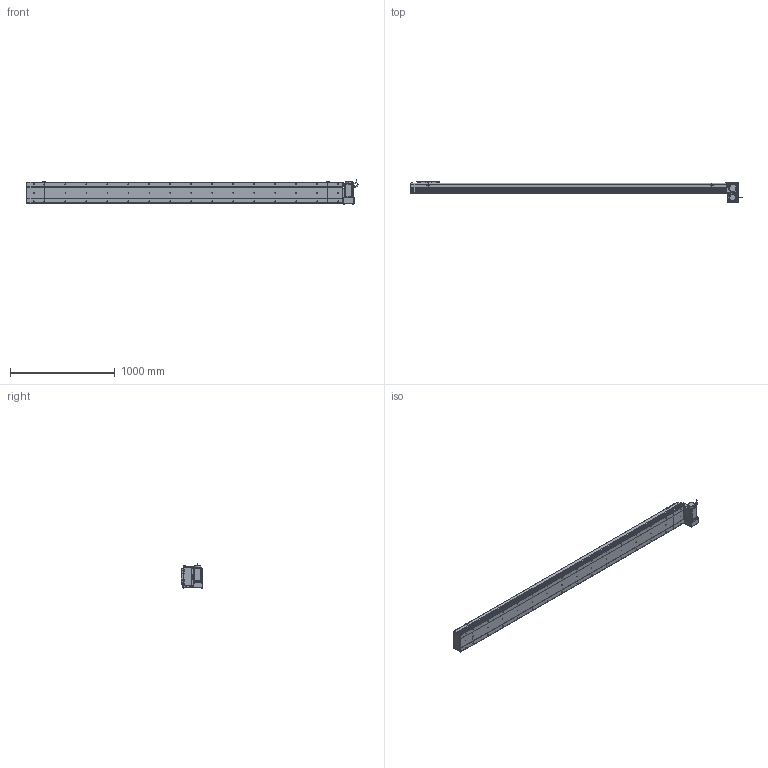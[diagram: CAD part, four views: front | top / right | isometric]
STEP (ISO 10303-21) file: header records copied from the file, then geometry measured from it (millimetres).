
FILE_DESCRIPTION (( 'STEP AP214' ), '1' );
FILE_NAME ('D20 CBH RU S2700.STEP', '2010-06-30T10:24:19', ( 'Conseil Régional Haute-Normandie' ), ( 'Conseil Régional Haute-Normandie' ), 'SwSTEP 2.0', 'SolidWorks 2010', '' );
FILE_SCHEMA (( 'AUTOMOTIVE_DESIGN' ));
Length unit declared in the file: millimetre
Products named in the file (31): Support Chariot D20_Default; Chariot D20_Default; Corp Tail D20+100_Default; Tail D20+100_Default; Couvercle S2700_Default; vis M5 L15_Default; Plaque De Serrage D20_Default; Plaque de Bout Tail D20_Default; Couvercle_Default; Corp S2700_Default; Corp D20 S2700_Default; Glissiere_Default; D20 CBH RU S2700; Support moteur RU_Default; Plaque de Bout Head D20 RU_Default; Head RU_Default; Plaque De Serrage D20 RU_Default; Couvercle RU_Default; Corp Tail D20 RU_Default; Moteur motionking 90BLDC125A-640; Rondelle Cache D20 RU_Default; Cache Support Moteur RU_Default; codeur 90BLDC125-640; corps 90BLDC125A-640; avant 90BLDC125A-640; vis M5 L30_Default; Conecteur_Default; Conecteur2_Default; vis M5 L47_Default; ecrou_Default
Assembly tree (66 placements, depth 4):
  D20 CBH RU S2700
    Corp D20 S2700_Default
      Couvercle S2700_Default
      Corp S2700_Default
    Tail D20+100_Default
      vis M5 L15_Default  x6
      Couvercle_Default
      Corp Tail D20+100_Default
      Plaque de Bout Tail D20_Default
      Plaque De Serrage D20_Default
    Head RU_Default
      vis M5 L15_Default  x12
      vis M5 L47_Default  x4
      Rondelle Cache D20 RU_Default  x3
      Plaque De Serrage D20 RU_Default
      ecrou_Default  x4
      vis M5 L30_Default  x4
      Corp Tail D20 RU_Default
      Plaque de Bout Head D20 RU_Default
      Cache Support Moteur RU_Default
      Couvercle RU_Default
      Moteur motionking 90BLDC125A-640
        codeur 90BLDC125-640
        avant 90BLDC125A-640
        Conecteur_Default
        Conecteur2_Default
        corps 90BLDC125A-640
      Support moteur RU_Default
    Chariot D20_Default
      vis M5 L15_Default  x8
      Support Chariot D20_Default
      Glissiere_Default
      Chariot D20_Default
Bounding box: 3164.45 x 209 x 229.7 mm (x, y, z)
Volume: 21345326.8 mm3; surface area: 4120716.2 mm2
Topology: 103 solids, 103 shells, 3808 faces, 9488 edges, 6166 vertices
Faces by surface type: plane 2111, bspline 806, cylinder 728, torus 91, cone 68, sphere 4
Entity records: 160534 total; most frequent: CARTESIAN_POINT 82500, ORIENTED_EDGE 15444, DIRECTION 11826, EDGE_CURVE 7722, VERTEX_POINT 5110, VECTOR 4978, LINE 4978, AXIS2_PLACEMENT_3D 3424
